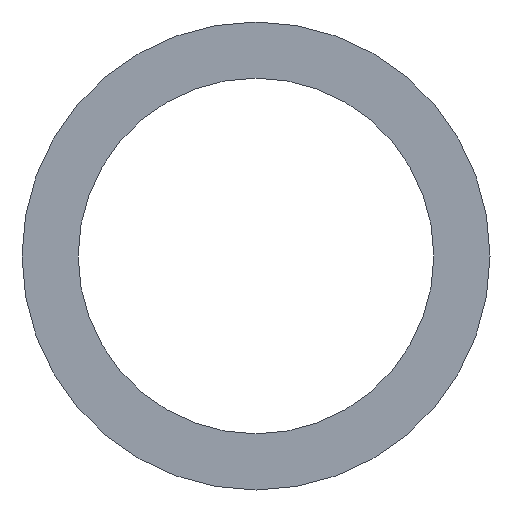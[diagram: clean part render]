
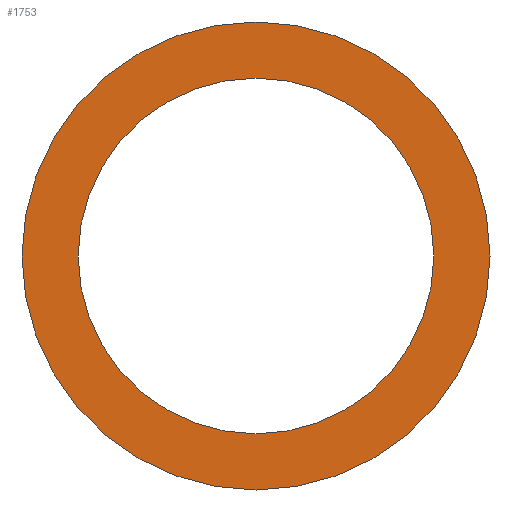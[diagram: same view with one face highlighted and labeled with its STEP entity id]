
A CAD part, front view. The second image highlights one B-rep face of the part: STEP entity #1753.
In plain terms, the highlighted planar face has unit normal (0, -1, 0).
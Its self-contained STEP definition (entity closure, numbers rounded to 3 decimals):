
#212 = DIRECTION ( 'NONE',  ( 0., 0., -1. ) ) ;
#319 = EDGE_CURVE ( 'NONE', #5442, #5803, #1223, .T. ) ;
#539 = CARTESIAN_POINT ( 'NONE',  ( 0., -32., -125. ) ) ;
#829 = PLANE ( 'NONE',  #4404 ) ;
#929 = AXIS2_PLACEMENT_3D ( 'NONE', #2942, #5510, #4046 ) ;
#979 = CIRCLE ( 'NONE', #5426, 95. ) ;
#982 = DIRECTION ( 'NONE',  ( 0., 0., -1. ) ) ;
#1179 = EDGE_CURVE ( 'NONE', #5434, #1724, #2582, .T. ) ;
#1223 = CIRCLE ( 'NONE', #5989, 125. ) ;
#1350 = CARTESIAN_POINT ( 'NONE',  ( 0., -32., 0. ) ) ;
#1398 = DIRECTION ( 'NONE',  ( 0., 1., 0. ) ) ;
#1580 = CARTESIAN_POINT ( 'NONE',  ( 0., -32., 125. ) ) ;
#1663 = EDGE_LOOP ( 'NONE', ( #5529, #4385 ) ) ;
#1724 = VERTEX_POINT ( 'NONE', #3333 ) ;
#1753 = ADVANCED_FACE ( 'NONE', ( #3763, #6339 ), #829, .F. ) ;
#1990 = CARTESIAN_POINT ( 'NONE',  ( 0., -32., -95. ) ) ;
#1992 = EDGE_CURVE ( 'NONE', #1724, #5434, #979, .T. ) ;
#2228 = EDGE_CURVE ( 'NONE', #5803, #5442, #2671, .T. ) ;
#2411 = CARTESIAN_POINT ( 'NONE',  ( 0., -32., 95. ) ) ;
#2582 = CIRCLE ( 'NONE', #4566, 95. ) ;
#2671 = CIRCLE ( 'NONE', #929, 125. ) ;
#2942 = CARTESIAN_POINT ( 'NONE',  ( 0., -32., 0. ) ) ;
#3107 = CARTESIAN_POINT ( 'NONE',  ( 0., -32., 0. ) ) ;
#3333 = CARTESIAN_POINT ( 'NONE',  ( 0., -32., 95. ) ) ;
#3619 = DIRECTION ( 'NONE',  ( 0., -1., 0. ) ) ;
#3763 = FACE_BOUND ( 'NONE', #1663, .T. ) ;
#4046 = DIRECTION ( 'NONE',  ( 0., 0., -1. ) ) ;
#4110 = DIRECTION ( 'NONE',  ( 0., 0., -1. ) ) ;
#4385 = ORIENTED_EDGE ( 'NONE', *, *, #1992, .F. ) ;
#4404 = AXIS2_PLACEMENT_3D ( 'NONE', #2411, #1398, #5963 ) ;
#4566 = AXIS2_PLACEMENT_3D ( 'NONE', #5064, #5041, #982 ) ;
#4884 = DIRECTION ( 'NONE',  ( 0., -1., 0. ) ) ;
#5041 = DIRECTION ( 'NONE',  ( 0., -1., 0. ) ) ;
#5064 = CARTESIAN_POINT ( 'NONE',  ( 0., -32., 0. ) ) ;
#5426 = AXIS2_PLACEMENT_3D ( 'NONE', #3107, #3619, #4110 ) ;
#5433 = EDGE_LOOP ( 'NONE', ( #5519, #5790 ) ) ;
#5434 = VERTEX_POINT ( 'NONE', #1990 ) ;
#5442 = VERTEX_POINT ( 'NONE', #539 ) ;
#5510 = DIRECTION ( 'NONE',  ( 0., -1., 0. ) ) ;
#5519 = ORIENTED_EDGE ( 'NONE', *, *, #319, .T. ) ;
#5529 = ORIENTED_EDGE ( 'NONE', *, *, #1179, .F. ) ;
#5790 = ORIENTED_EDGE ( 'NONE', *, *, #2228, .T. ) ;
#5803 = VERTEX_POINT ( 'NONE', #1580 ) ;
#5963 = DIRECTION ( 'NONE',  ( 0., 0., 1. ) ) ;
#5989 = AXIS2_PLACEMENT_3D ( 'NONE', #1350, #4884, #212 ) ;
#6339 = FACE_OUTER_BOUND ( 'NONE', #5433, .T. ) ;
